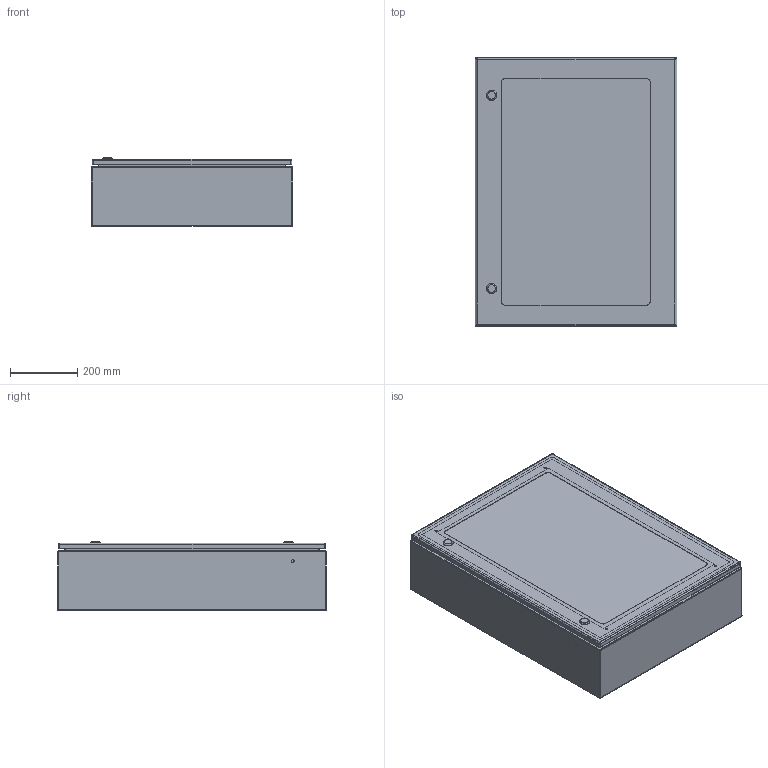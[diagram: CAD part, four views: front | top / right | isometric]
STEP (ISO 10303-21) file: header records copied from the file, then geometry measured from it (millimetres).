
FILE_DESCRIPTION (( 'STEP AP203' ), '1' );
FILE_NAME ('EC060820X.P.STEP', '2025-03-21T09:00:28', ( '' ), ( '' ), 'SwSTEP 2.0', 'SolidWorks 2022', '' );
FILE_SCHEMA (( 'CONFIG_CONTROL_DESIGN' ));
Length unit declared in the file: millimetre
Products named in the file (6): AR_ECOR_X_montaggio_porta_trasparente_0600x0800; EC060820X.P; AR_ECOR_X_porta_trasparente_0600x0800; AR_ECOR_X_Piastra_17; AR_ECOR_X_chiusura_std_STD; AR_ECOR_X_involucro_90_gradi_0600x0800x0200
Assembly tree (6 placements, depth 3):
  EC060820X.P
    AR_ECOR_X_involucro_90_gradi_0600x0800x0200
    AR_ECOR_X_Piastra_17
    AR_ECOR_X_montaggio_porta_trasparente_0600x0800
      AR_ECOR_X_porta_trasparente_0600x0800
      AR_ECOR_X_chiusura_std_STD  x2
Bounding box: 600 x 800 x 205 mm (x, y, z)
Volume: 4364574.5 mm3; surface area: 4151275.1 mm2
Topology: 6 solids, 6 shells, 418 faces, 998 edges, 604 vertices
Faces by surface type: cylinder 198, plane 172, sphere 20, cone 16, torus 8, bspline 4
Entity records: 12601 total; most frequent: CARTESIAN_POINT 2414, DIRECTION 2107, ORIENTED_EDGE 1880, EDGE_CURVE 940, AXIS2_PLACEMENT_3D 785, VERTEX_POINT 582, VECTOR 537, LINE 537
